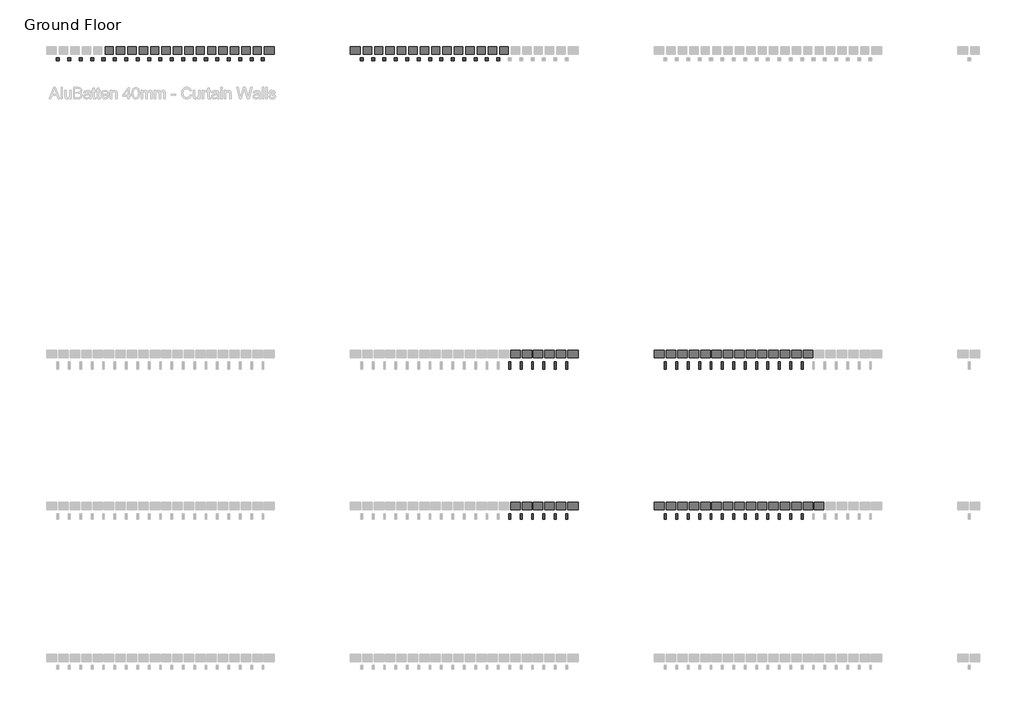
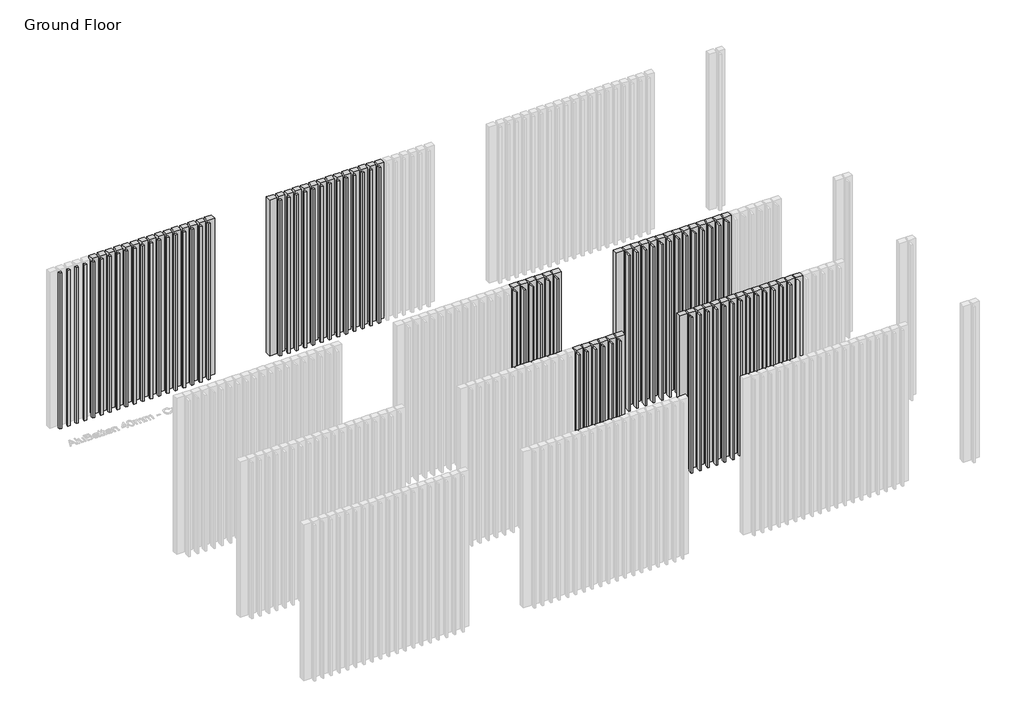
# One storey, part 4 of 350: 70 members, 70 plates.
"""IFC4 building model written with IfcOpenShell, lengths in millimetres."""

from ifc_helpers import new_model, si_unit, origin, place, context, project, spatial, transform, mapped, element, save
from components import rectangular_mullion_b3f0cc74, rectangular_mullion_5b385907, rectangular_mullion_e8802490, empty_system_panel_empty_db8e642d, empty_system_panel_empty_1b6afc67, empty_system_panel_empty_4d48d162, empty_system_panel_empty_b664eb17, empty_system_panel_empty_6da6c4cd, empty_system_panel_empty_b9c1531e

model = new_model("IFC4")

# Units and contexts
model_context = context("Model", 3, world=origin())
ifc_project = project(units=[si_unit("LENGTHUNIT", "METRE", prefix="MILLI")], contexts=[model_context])

# Site, building, storey
site = spatial("IfcSite", under=ifc_project)
building = spatial("IfcBuilding", under=site)
storey = spatial("IfcBuildingStorey", under=building, Name="Ground Floor", Elevation=0.0)

# Members
placement = place(None, origin())
rectangular_mullion_shape = rectangular_mullion_b3f0cc74(model_context)
element("IfcMember", 1, ObjectType="Rectangular Mullion : Batten_Aluminium_Modinex_AluBatten_25x75_EnglishOak", at=placement, inside=storey, context=model_context, shape_type="MappedRepresentation", body=[
    mapped(rectangular_mullion_shape, transform((10066.4361642, 8968.2978302, 0.0), x_axis=(1.0, 0.0, 0.0), y_axis=(0.0, -1.0, 0.0), z_axis=(0.0, 0.0, -1.0))),
])
element("IfcMember", 2, ObjectType="Rectangular Mullion : Batten_Aluminium_Modinex_AluBatten_25x75_EnglishOak", at=placement, inside=storey, context=model_context, shape_type="MappedRepresentation", body=[
    mapped(rectangular_mullion_shape, transform((10216.4361642, 8968.2978302, 0.0), x_axis=(1.0, 0.0, 0.0), y_axis=(0.0, -1.0, 0.0), z_axis=(0.0, 0.0, -1.0))),
])
element("IfcMember", 3, ObjectType="Rectangular Mullion : Batten_Aluminium_Modinex_AluBatten_25x75_EnglishOak", at=placement, inside=storey, context=model_context, shape_type="MappedRepresentation", body=[
    mapped(rectangular_mullion_shape, transform((10366.4361642, 8968.2978302, 0.0), x_axis=(1.0, 0.0, 0.0), y_axis=(0.0, -1.0, 0.0), z_axis=(0.0, 0.0, -1.0))),
])
element("IfcMember", 4, ObjectType="Rectangular Mullion : Batten_Aluminium_Modinex_AluBatten_25x75_EnglishOak", at=placement, inside=storey, context=model_context, shape_type="MappedRepresentation", body=[
    mapped(rectangular_mullion_shape, transform((10516.4361642, 8968.2978302, 0.0), x_axis=(1.0, 0.0, 0.0), y_axis=(0.0, -1.0, 0.0), z_axis=(0.0, 0.0, -1.0))),
])
element("IfcMember", 5, ObjectType="Rectangular Mullion : Batten_Aluminium_Modinex_AluBatten_25x75_EnglishOak", at=placement, inside=storey, context=model_context, shape_type="MappedRepresentation", body=[
    mapped(rectangular_mullion_shape, transform((10666.4361642, 8968.2978302, 0.0), x_axis=(1.0, 0.0, 0.0), y_axis=(0.0, -1.0, 0.0), z_axis=(0.0, 0.0, -1.0))),
])
element("IfcMember", 6, ObjectType="Rectangular Mullion : Batten_Aluminium_Modinex_AluBatten_25x75_EnglishOak", at=placement, inside=storey, context=model_context, shape_type="MappedRepresentation", body=[
    mapped(rectangular_mullion_shape, transform((10816.4361642, 8968.2978302, 0.0), x_axis=(1.0, 0.0, 0.0), y_axis=(0.0, -1.0, 0.0), z_axis=(0.0, 0.0, -1.0))),
])
element("IfcMember", 7, ObjectType="Rectangular Mullion : Batten_Aluminium_Modinex_AluBatten_25x75_EnglishOak", at=placement, inside=storey, context=model_context, shape_type="MappedRepresentation", body=[
    mapped(rectangular_mullion_shape, transform((10966.4361642, 8968.2978302, 0.0), x_axis=(1.0, 0.0, 0.0), y_axis=(0.0, -1.0, 0.0), z_axis=(0.0, 0.0, -1.0))),
])
element("IfcMember", 8, ObjectType="Rectangular Mullion : Batten_Aluminium_Modinex_AluBatten_25x75_EnglishOak", at=placement, inside=storey, context=model_context, shape_type="MappedRepresentation", body=[
    mapped(rectangular_mullion_shape, transform((11116.4361642, 8968.2978302, 0.0), x_axis=(1.0, 0.0, 0.0), y_axis=(0.0, -1.0, 0.0), z_axis=(0.0, 0.0, -1.0))),
])
element("IfcMember", 9, ObjectType="Rectangular Mullion : Batten_Aluminium_Modinex_AluBatten_25x75_EnglishOak", at=placement, inside=storey, context=model_context, shape_type="MappedRepresentation", body=[
    mapped(rectangular_mullion_shape, transform((11266.4361642, 8968.2978302, 0.0), x_axis=(1.0, 0.0, 0.0), y_axis=(0.0, -1.0, 0.0), z_axis=(0.0, 0.0, -1.0))),
])
element("IfcMember", 10, ObjectType="Rectangular Mullion : Batten_Aluminium_Modinex_AluBatten_25x75_EnglishOak", at=placement, inside=storey, context=model_context, shape_type="MappedRepresentation", body=[
    mapped(rectangular_mullion_shape, transform((11416.4361642, 8968.2978302, 0.0), x_axis=(1.0, 0.0, 0.0), y_axis=(0.0, -1.0, 0.0), z_axis=(0.0, 0.0, -1.0))),
])
element("IfcMember", 11, ObjectType="Rectangular Mullion : Batten_Aluminium_Modinex_AluBatten_25x75_EnglishOak", at=placement, inside=storey, context=model_context, shape_type="MappedRepresentation", body=[
    mapped(rectangular_mullion_shape, transform((11566.4361642, 8968.2978302, 0.0), x_axis=(1.0, 0.0, 0.0), y_axis=(0.0, -1.0, 0.0), z_axis=(0.0, 0.0, -1.0))),
])
element("IfcMember", 12, ObjectType="Rectangular Mullion : Batten_Aluminium_Modinex_AluBatten_25x75_EnglishOak", at=placement, inside=storey, context=model_context, shape_type="MappedRepresentation", body=[
    mapped(rectangular_mullion_shape, transform((11716.4361642, 8968.2978302, 0.0), x_axis=(1.0, 0.0, 0.0), y_axis=(0.0, -1.0, 0.0), z_axis=(0.0, 0.0, -1.0))),
])
element("IfcMember", 13, ObjectType="Rectangular Mullion : Batten_Aluminium_Modinex_AluBatten_25x75_EnglishOak", at=placement, inside=storey, context=model_context, shape_type="MappedRepresentation", body=[
    mapped(rectangular_mullion_shape, transform((11866.4361642, 8968.2978302, 0.0), x_axis=(1.0, 0.0, 0.0), y_axis=(0.0, -1.0, 0.0), z_axis=(0.0, 0.0, -1.0))),
])
rectangular_mullion_2_shape = rectangular_mullion_5b385907(model_context)
element("IfcMember", 14, ObjectType="Rectangular Mullion : Batten_Aluminium_Modinex_AluBatten_40x40_AfricanEbony", at=placement, inside=storey, context=model_context, shape_type="MappedRepresentation", body=[
    mapped(rectangular_mullion_2_shape, transform((2066.4361642, 14968.2978302, 0.0), x_axis=(1.0, 0.0, 0.0), y_axis=(0.0, -1.0, 0.0), z_axis=(0.0, 0.0, -1.0))),
])
element("IfcMember", 15, ObjectType="Rectangular Mullion : Batten_Aluminium_Modinex_AluBatten_40x40_AfricanEbony", at=placement, inside=storey, context=model_context, shape_type="MappedRepresentation", body=[
    mapped(rectangular_mullion_2_shape, transform((2216.4361642, 14968.2978302, 0.0), x_axis=(1.0, 0.0, 0.0), y_axis=(0.0, -1.0, 0.0), z_axis=(0.0, 0.0, -1.0))),
])
element("IfcMember", 16, ObjectType="Rectangular Mullion : Batten_Aluminium_Modinex_AluBatten_40x40_AfricanEbony", at=placement, inside=storey, context=model_context, shape_type="MappedRepresentation", body=[
    mapped(rectangular_mullion_2_shape, transform((2366.4361642, 14968.2978302, 0.0), x_axis=(1.0, 0.0, 0.0), y_axis=(0.0, -1.0, 0.0), z_axis=(0.0, 0.0, -1.0))),
])
element("IfcMember", 17, ObjectType="Rectangular Mullion : Batten_Aluminium_Modinex_AluBatten_40x40_AfricanEbony", at=placement, inside=storey, context=model_context, shape_type="MappedRepresentation", body=[
    mapped(rectangular_mullion_2_shape, transform((2516.4361642, 14968.2978302, 0.0), x_axis=(1.0, 0.0, 0.0), y_axis=(0.0, -1.0, 0.0), z_axis=(0.0, 0.0, -1.0))),
])
element("IfcMember", 18, ObjectType="Rectangular Mullion : Batten_Aluminium_Modinex_AluBatten_40x40_AfricanEbony", at=placement, inside=storey, context=model_context, shape_type="MappedRepresentation", body=[
    mapped(rectangular_mullion_2_shape, transform((2666.4361642, 14968.2978302, 0.0), x_axis=(1.0, 0.0, 0.0), y_axis=(0.0, -1.0, 0.0), z_axis=(0.0, 0.0, -1.0))),
])
element("IfcMember", 19, ObjectType="Rectangular Mullion : Batten_Aluminium_Modinex_AluBatten_40x40_AfricanEbony", at=placement, inside=storey, context=model_context, shape_type="MappedRepresentation", body=[
    mapped(rectangular_mullion_2_shape, transform((2816.4361642, 14968.2978302, 0.0), x_axis=(1.0, 0.0, 0.0), y_axis=(0.0, -1.0, 0.0), z_axis=(0.0, 0.0, -1.0))),
])
element("IfcMember", 20, ObjectType="Rectangular Mullion : Batten_Aluminium_Modinex_AluBatten_40x40_AfricanEbony", at=placement, inside=storey, context=model_context, shape_type="MappedRepresentation", body=[
    mapped(rectangular_mullion_2_shape, transform((2966.4361642, 14968.2978302, 0.0), x_axis=(1.0, 0.0, 0.0), y_axis=(0.0, -1.0, 0.0), z_axis=(0.0, 0.0, -1.0))),
])
element("IfcMember", 21, ObjectType="Rectangular Mullion : Batten_Aluminium_Modinex_AluBatten_40x40_AfricanEbony", at=placement, inside=storey, context=model_context, shape_type="MappedRepresentation", body=[
    mapped(rectangular_mullion_2_shape, transform((3116.4361642, 14968.2978302, 0.0), x_axis=(1.0, 0.0, 0.0), y_axis=(0.0, -1.0, 0.0), z_axis=(0.0, 0.0, -1.0))),
])
element("IfcMember", 22, ObjectType="Rectangular Mullion : Batten_Aluminium_Modinex_AluBatten_40x40_AfricanEbony", at=placement, inside=storey, context=model_context, shape_type="MappedRepresentation", body=[
    mapped(rectangular_mullion_2_shape, transform((3266.4361642, 14968.2978302, 0.0), x_axis=(1.0, 0.0, 0.0), y_axis=(0.0, -1.0, 0.0), z_axis=(0.0, 0.0, -1.0))),
])
element("IfcMember", 23, ObjectType="Rectangular Mullion : Batten_Aluminium_Modinex_AluBatten_40x40_AfricanEbony", at=placement, inside=storey, context=model_context, shape_type="MappedRepresentation", body=[
    mapped(rectangular_mullion_2_shape, transform((3416.4361642, 14968.2978302, 0.0), x_axis=(1.0, 0.0, 0.0), y_axis=(0.0, -1.0, 0.0), z_axis=(0.0, 0.0, -1.0))),
])
element("IfcMember", 24, ObjectType="Rectangular Mullion : Batten_Aluminium_Modinex_AluBatten_40x40_AfricanEbony", at=placement, inside=storey, context=model_context, shape_type="MappedRepresentation", body=[
    mapped(rectangular_mullion_2_shape, transform((3566.4361642, 14968.2978302, 0.0), x_axis=(1.0, 0.0, 0.0), y_axis=(0.0, -1.0, 0.0), z_axis=(0.0, 0.0, -1.0))),
])
element("IfcMember", 25, ObjectType="Rectangular Mullion : Batten_Aluminium_Modinex_AluBatten_40x40_AfricanEbony", at=placement, inside=storey, context=model_context, shape_type="MappedRepresentation", body=[
    mapped(rectangular_mullion_2_shape, transform((3716.4361642, 14968.2978302, 0.0), x_axis=(1.0, 0.0, 0.0), y_axis=(0.0, -1.0, 0.0), z_axis=(0.0, 0.0, -1.0))),
])
element("IfcMember", 26, ObjectType="Rectangular Mullion : Batten_Aluminium_Modinex_AluBatten_40x40_AfricanEbony", at=placement, inside=storey, context=model_context, shape_type="MappedRepresentation", body=[
    mapped(rectangular_mullion_2_shape, transform((3866.4361642, 14968.2978302, 0.0), x_axis=(1.0, 0.0, 0.0), y_axis=(0.0, -1.0, 0.0), z_axis=(0.0, 0.0, -1.0))),
])
element("IfcMember", 27, ObjectType="Rectangular Mullion : Batten_Aluminium_Modinex_AluBatten_40x40_AfricanEbony", at=placement, inside=storey, context=model_context, shape_type="MappedRepresentation", body=[
    mapped(rectangular_mullion_2_shape, transform((4016.4361642, 14968.2978302, 0.0), x_axis=(1.0, 0.0, 0.0), y_axis=(0.0, -1.0, 0.0), z_axis=(0.0, 0.0, -1.0))),
])
element("IfcMember", 28, ObjectType="Rectangular Mullion : Batten_Aluminium_Modinex_AluBatten_40x40_AfricanEbony", at=placement, inside=storey, context=model_context, shape_type="MappedRepresentation", body=[
    mapped(rectangular_mullion_2_shape, transform((4166.4361642, 14968.2978302, 0.0), x_axis=(1.0, 0.0, 0.0), y_axis=(0.0, -1.0, 0.0), z_axis=(0.0, 0.0, -1.0))),
])
element("IfcMember", 29, ObjectType="Rectangular Mullion : Batten_Aluminium_Modinex_AluBatten_40x40_AfricanEbony", at=placement, inside=storey, context=model_context, shape_type="MappedRepresentation", body=[
    mapped(rectangular_mullion_2_shape, transform((4316.4361642, 14968.2978302, 0.0), x_axis=(1.0, 0.0, 0.0), y_axis=(0.0, -1.0, 0.0), z_axis=(0.0, 0.0, -1.0))),
])
element("IfcMember", 30, ObjectType="Rectangular Mullion : Batten_Aluminium_Modinex_AluBatten_40x40_AfricanEbony", at=placement, inside=storey, context=model_context, shape_type="MappedRepresentation", body=[
    mapped(rectangular_mullion_2_shape, transform((4466.4361642, 14968.2978302, 0.0), x_axis=(1.0, 0.0, 0.0), y_axis=(0.0, -1.0, 0.0), z_axis=(0.0, 0.0, -1.0))),
])
element("IfcMember", 31, ObjectType="Rectangular Mullion : Batten_Aluminium_Modinex_AluBatten_40x40_AfricanEbony", at=placement, inside=storey, context=model_context, shape_type="MappedRepresentation", body=[
    mapped(rectangular_mullion_2_shape, transform((4616.4361642, 14968.2978302, 0.0), x_axis=(1.0, 0.0, 0.0), y_axis=(0.0, -1.0, 0.0), z_axis=(0.0, 0.0, -1.0))),
])
element("IfcMember", 32, ObjectType="Rectangular Mullion : Batten_Aluminium_Modinex_AluBatten_40x40_AfricanEbony", at=placement, inside=storey, context=model_context, shape_type="MappedRepresentation", body=[
    mapped(rectangular_mullion_2_shape, transform((4766.4361642, 14968.2978302, 0.0), x_axis=(1.0, 0.0, 0.0), y_axis=(0.0, -1.0, 0.0), z_axis=(0.0, 0.0, -1.0))),
])
element("IfcMember", 33, ObjectType="Rectangular Mullion : Batten_Aluminium_Modinex_AluBatten_25x75_Cedar", at=placement, inside=storey, context=model_context, shape_type="MappedRepresentation", body=[
    mapped(rectangular_mullion_shape, transform((8016.4361642, 8968.2978302, 0.0), x_axis=(1.0, 0.0, 0.0), y_axis=(0.0, -1.0, 0.0), z_axis=(0.0, 0.0, -1.0))),
])
element("IfcMember", 34, ObjectType="Rectangular Mullion : Batten_Aluminium_Modinex_AluBatten_25x75_Cedar", at=placement, inside=storey, context=model_context, shape_type="MappedRepresentation", body=[
    mapped(rectangular_mullion_shape, transform((8166.4361642, 8968.2978302, 0.0), x_axis=(1.0, 0.0, 0.0), y_axis=(0.0, -1.0, 0.0), z_axis=(0.0, 0.0, -1.0))),
])
element("IfcMember", 35, ObjectType="Rectangular Mullion : Batten_Aluminium_Modinex_AluBatten_25x75_Cedar", at=placement, inside=storey, context=model_context, shape_type="MappedRepresentation", body=[
    mapped(rectangular_mullion_shape, transform((8316.4361642, 8968.2978302, 0.0), x_axis=(1.0, 0.0, 0.0), y_axis=(0.0, -1.0, 0.0), z_axis=(0.0, 0.0, -1.0))),
])
element("IfcMember", 36, ObjectType="Rectangular Mullion : Batten_Aluminium_Modinex_AluBatten_25x75_Cedar", at=placement, inside=storey, context=model_context, shape_type="MappedRepresentation", body=[
    mapped(rectangular_mullion_shape, transform((8466.4361642, 8968.2978302, 0.0), x_axis=(1.0, 0.0, 0.0), y_axis=(0.0, -1.0, 0.0), z_axis=(0.0, 0.0, -1.0))),
])
element("IfcMember", 37, ObjectType="Rectangular Mullion : Batten_Aluminium_Modinex_AluBatten_25x75_Cedar", at=placement, inside=storey, context=model_context, shape_type="MappedRepresentation", body=[
    mapped(rectangular_mullion_shape, transform((8616.4361642, 8968.2978302, 0.0), x_axis=(1.0, 0.0, 0.0), y_axis=(0.0, -1.0, 0.0), z_axis=(0.0, 0.0, -1.0))),
])
element("IfcMember", 38, ObjectType="Rectangular Mullion : Batten_Aluminium_Modinex_AluBatten_25x75_Cedar", at=placement, inside=storey, context=model_context, shape_type="MappedRepresentation", body=[
    mapped(rectangular_mullion_shape, transform((8766.4361642, 8968.2978302, 0.0), x_axis=(1.0, 0.0, 0.0), y_axis=(0.0, -1.0, 0.0), z_axis=(0.0, 0.0, -1.0))),
])
rectangular_mullion_3_shape = rectangular_mullion_e8802490(model_context)
element("IfcMember", 39, ObjectType="Rectangular Mullion : Batten_Aluminium_Modinex_AluBatten_25x100_Cedar", at=placement, inside=storey, context=model_context, shape_type="MappedRepresentation", body=[
    mapped(rectangular_mullion_3_shape, transform((8016.4361642, 10968.2978302, 0.0), x_axis=(1.0, 0.0, 0.0), y_axis=(0.0, -1.0, 0.0), z_axis=(0.0, 0.0, -1.0))),
])
element("IfcMember", 40, ObjectType="Rectangular Mullion : Batten_Aluminium_Modinex_AluBatten_25x100_Cedar", at=placement, inside=storey, context=model_context, shape_type="MappedRepresentation", body=[
    mapped(rectangular_mullion_3_shape, transform((8166.4361642, 10968.2978302, 0.0), x_axis=(1.0, 0.0, 0.0), y_axis=(0.0, -1.0, 0.0), z_axis=(0.0, 0.0, -1.0))),
])
element("IfcMember", 41, ObjectType="Rectangular Mullion : Batten_Aluminium_Modinex_AluBatten_25x100_Cedar", at=placement, inside=storey, context=model_context, shape_type="MappedRepresentation", body=[
    mapped(rectangular_mullion_3_shape, transform((8316.4361642, 10968.2978302, 0.0), x_axis=(1.0, 0.0, 0.0), y_axis=(0.0, -1.0, 0.0), z_axis=(0.0, 0.0, -1.0))),
])
element("IfcMember", 42, ObjectType="Rectangular Mullion : Batten_Aluminium_Modinex_AluBatten_25x100_Cedar", at=placement, inside=storey, context=model_context, shape_type="MappedRepresentation", body=[
    mapped(rectangular_mullion_3_shape, transform((8466.4361642, 10968.2978302, 0.0), x_axis=(1.0, 0.0, 0.0), y_axis=(0.0, -1.0, 0.0), z_axis=(0.0, 0.0, -1.0))),
])
element("IfcMember", 43, ObjectType="Rectangular Mullion : Batten_Aluminium_Modinex_AluBatten_25x100_Cedar", at=placement, inside=storey, context=model_context, shape_type="MappedRepresentation", body=[
    mapped(rectangular_mullion_3_shape, transform((8616.4361642, 10968.2978302, 0.0), x_axis=(1.0, 0.0, 0.0), y_axis=(0.0, -1.0, 0.0), z_axis=(0.0, 0.0, -1.0))),
])
element("IfcMember", 44, ObjectType="Rectangular Mullion : Batten_Aluminium_Modinex_AluBatten_25x100_Cedar", at=placement, inside=storey, context=model_context, shape_type="MappedRepresentation", body=[
    mapped(rectangular_mullion_3_shape, transform((8766.4361642, 10968.2978302, 0.0), x_axis=(1.0, 0.0, 0.0), y_axis=(0.0, -1.0, 0.0), z_axis=(0.0, 0.0, -1.0))),
])
element("IfcMember", 45, ObjectType="Rectangular Mullion : Batten_Aluminium_Modinex_AluBatten_25x100_EnglishOak", at=placement, inside=storey, context=model_context, shape_type="MappedRepresentation", body=[
    mapped(rectangular_mullion_3_shape, transform((10066.4361642, 10968.2978302, 0.0), x_axis=(1.0, 0.0, 0.0), y_axis=(0.0, -1.0, 0.0), z_axis=(0.0, 0.0, -1.0))),
])
element("IfcMember", 46, ObjectType="Rectangular Mullion : Batten_Aluminium_Modinex_AluBatten_25x100_EnglishOak", at=placement, inside=storey, context=model_context, shape_type="MappedRepresentation", body=[
    mapped(rectangular_mullion_3_shape, transform((10216.4361642, 10968.2978302, 0.0), x_axis=(1.0, 0.0, 0.0), y_axis=(0.0, -1.0, 0.0), z_axis=(0.0, 0.0, -1.0))),
])
element("IfcMember", 47, ObjectType="Rectangular Mullion : Batten_Aluminium_Modinex_AluBatten_25x100_EnglishOak", at=placement, inside=storey, context=model_context, shape_type="MappedRepresentation", body=[
    mapped(rectangular_mullion_3_shape, transform((10366.4361642, 10968.2978302, 0.0), x_axis=(1.0, 0.0, 0.0), y_axis=(0.0, -1.0, 0.0), z_axis=(0.0, 0.0, -1.0))),
])
element("IfcMember", 48, ObjectType="Rectangular Mullion : Batten_Aluminium_Modinex_AluBatten_25x100_EnglishOak", at=placement, inside=storey, context=model_context, shape_type="MappedRepresentation", body=[
    mapped(rectangular_mullion_3_shape, transform((10516.4361642, 10968.2978302, 0.0), x_axis=(1.0, 0.0, 0.0), y_axis=(0.0, -1.0, 0.0), z_axis=(0.0, 0.0, -1.0))),
])
element("IfcMember", 49, ObjectType="Rectangular Mullion : Batten_Aluminium_Modinex_AluBatten_25x100_EnglishOak", at=placement, inside=storey, context=model_context, shape_type="MappedRepresentation", body=[
    mapped(rectangular_mullion_3_shape, transform((10666.4361642, 10968.2978302, 0.0), x_axis=(1.0, 0.0, 0.0), y_axis=(0.0, -1.0, 0.0), z_axis=(0.0, 0.0, -1.0))),
])
element("IfcMember", 50, ObjectType="Rectangular Mullion : Batten_Aluminium_Modinex_AluBatten_25x100_EnglishOak", at=placement, inside=storey, context=model_context, shape_type="MappedRepresentation", body=[
    mapped(rectangular_mullion_3_shape, transform((10816.4361642, 10968.2978302, 0.0), x_axis=(1.0, 0.0, 0.0), y_axis=(0.0, -1.0, 0.0), z_axis=(0.0, 0.0, -1.0))),
])
element("IfcMember", 51, ObjectType="Rectangular Mullion : Batten_Aluminium_Modinex_AluBatten_25x100_EnglishOak", at=placement, inside=storey, context=model_context, shape_type="MappedRepresentation", body=[
    mapped(rectangular_mullion_3_shape, transform((10966.4361642, 10968.2978302, 0.0), x_axis=(1.0, 0.0, 0.0), y_axis=(0.0, -1.0, 0.0), z_axis=(0.0, 0.0, -1.0))),
])
element("IfcMember", 52, ObjectType="Rectangular Mullion : Batten_Aluminium_Modinex_AluBatten_25x100_EnglishOak", at=placement, inside=storey, context=model_context, shape_type="MappedRepresentation", body=[
    mapped(rectangular_mullion_3_shape, transform((11116.4361642, 10968.2978302, 0.0), x_axis=(1.0, 0.0, 0.0), y_axis=(0.0, -1.0, 0.0), z_axis=(0.0, 0.0, -1.0))),
])
element("IfcMember", 53, ObjectType="Rectangular Mullion : Batten_Aluminium_Modinex_AluBatten_25x100_EnglishOak", at=placement, inside=storey, context=model_context, shape_type="MappedRepresentation", body=[
    mapped(rectangular_mullion_3_shape, transform((11266.4361642, 10968.2978302, 0.0), x_axis=(1.0, 0.0, 0.0), y_axis=(0.0, -1.0, 0.0), z_axis=(0.0, 0.0, -1.0))),
])
element("IfcMember", 54, ObjectType="Rectangular Mullion : Batten_Aluminium_Modinex_AluBatten_25x100_EnglishOak", at=placement, inside=storey, context=model_context, shape_type="MappedRepresentation", body=[
    mapped(rectangular_mullion_3_shape, transform((11416.4361642, 10968.2978302, 0.0), x_axis=(1.0, 0.0, 0.0), y_axis=(0.0, -1.0, 0.0), z_axis=(0.0, 0.0, -1.0))),
])
element("IfcMember", 55, ObjectType="Rectangular Mullion : Batten_Aluminium_Modinex_AluBatten_25x100_EnglishOak", at=placement, inside=storey, context=model_context, shape_type="MappedRepresentation", body=[
    mapped(rectangular_mullion_3_shape, transform((11566.4361642, 10968.2978302, 0.0), x_axis=(1.0, 0.0, 0.0), y_axis=(0.0, -1.0, 0.0), z_axis=(0.0, 0.0, -1.0))),
])
element("IfcMember", 56, ObjectType="Rectangular Mullion : Batten_Aluminium_Modinex_AluBatten_25x100_EnglishOak", at=placement, inside=storey, context=model_context, shape_type="MappedRepresentation", body=[
    mapped(rectangular_mullion_3_shape, transform((11716.4361642, 10968.2978302, 0.0), x_axis=(1.0, 0.0, 0.0), y_axis=(0.0, -1.0, 0.0), z_axis=(0.0, 0.0, -1.0))),
])
element("IfcMember", 57, ObjectType="Rectangular Mullion : Batten_Aluminium_Modinex_AluBatten_25x100_EnglishOak", at=placement, inside=storey, context=model_context, shape_type="MappedRepresentation", body=[
    mapped(rectangular_mullion_3_shape, transform((11866.4361642, 10968.2978302, 0.0), x_axis=(1.0, 0.0, 0.0), y_axis=(0.0, -1.0, 0.0), z_axis=(0.0, 0.0, -1.0))),
])
element("IfcMember", 58, ObjectType="Rectangular Mullion : Batten_Aluminium_Modinex_AluBatten_40x40_Cedar", at=placement, inside=storey, context=model_context, shape_type="MappedRepresentation", body=[
    mapped(rectangular_mullion_2_shape, transform((6066.4361642, 14968.2978302, 0.0), x_axis=(1.0, 0.0, 0.0), y_axis=(0.0, -1.0, 0.0), z_axis=(0.0, 0.0, -1.0))),
])
element("IfcMember", 59, ObjectType="Rectangular Mullion : Batten_Aluminium_Modinex_AluBatten_40x40_Cedar", at=placement, inside=storey, context=model_context, shape_type="MappedRepresentation", body=[
    mapped(rectangular_mullion_2_shape, transform((6216.4361642, 14968.2978302, 0.0), x_axis=(1.0, 0.0, 0.0), y_axis=(0.0, -1.0, 0.0), z_axis=(0.0, 0.0, -1.0))),
])
element("IfcMember", 60, ObjectType="Rectangular Mullion : Batten_Aluminium_Modinex_AluBatten_40x40_Cedar", at=placement, inside=storey, context=model_context, shape_type="MappedRepresentation", body=[
    mapped(rectangular_mullion_2_shape, transform((6366.4361642, 14968.2978302, 0.0), x_axis=(1.0, 0.0, 0.0), y_axis=(0.0, -1.0, 0.0), z_axis=(0.0, 0.0, -1.0))),
])
element("IfcMember", 61, ObjectType="Rectangular Mullion : Batten_Aluminium_Modinex_AluBatten_40x40_Cedar", at=placement, inside=storey, context=model_context, shape_type="MappedRepresentation", body=[
    mapped(rectangular_mullion_2_shape, transform((6516.4361642, 14968.2978302, 0.0), x_axis=(1.0, 0.0, 0.0), y_axis=(0.0, -1.0, 0.0), z_axis=(0.0, 0.0, -1.0))),
])
element("IfcMember", 62, ObjectType="Rectangular Mullion : Batten_Aluminium_Modinex_AluBatten_40x40_Cedar", at=placement, inside=storey, context=model_context, shape_type="MappedRepresentation", body=[
    mapped(rectangular_mullion_2_shape, transform((6666.4361642, 14968.2978302, 0.0), x_axis=(1.0, 0.0, 0.0), y_axis=(0.0, -1.0, 0.0), z_axis=(0.0, 0.0, -1.0))),
])
element("IfcMember", 63, ObjectType="Rectangular Mullion : Batten_Aluminium_Modinex_AluBatten_40x40_Cedar", at=placement, inside=storey, context=model_context, shape_type="MappedRepresentation", body=[
    mapped(rectangular_mullion_2_shape, transform((6816.4361642, 14968.2978302, 0.0), x_axis=(1.0, 0.0, 0.0), y_axis=(0.0, -1.0, 0.0), z_axis=(0.0, 0.0, -1.0))),
])
element("IfcMember", 64, ObjectType="Rectangular Mullion : Batten_Aluminium_Modinex_AluBatten_40x40_Cedar", at=placement, inside=storey, context=model_context, shape_type="MappedRepresentation", body=[
    mapped(rectangular_mullion_2_shape, transform((6966.4361642, 14968.2978302, 0.0), x_axis=(1.0, 0.0, 0.0), y_axis=(0.0, -1.0, 0.0), z_axis=(0.0, 0.0, -1.0))),
])
element("IfcMember", 65, ObjectType="Rectangular Mullion : Batten_Aluminium_Modinex_AluBatten_40x40_Cedar", at=placement, inside=storey, context=model_context, shape_type="MappedRepresentation", body=[
    mapped(rectangular_mullion_2_shape, transform((7116.4361642, 14968.2978302, 0.0), x_axis=(1.0, 0.0, 0.0), y_axis=(0.0, -1.0, 0.0), z_axis=(0.0, 0.0, -1.0))),
])
element("IfcMember", 66, ObjectType="Rectangular Mullion : Batten_Aluminium_Modinex_AluBatten_40x40_Cedar", at=placement, inside=storey, context=model_context, shape_type="MappedRepresentation", body=[
    mapped(rectangular_mullion_2_shape, transform((7266.4361642, 14968.2978302, 0.0), x_axis=(1.0, 0.0, 0.0), y_axis=(0.0, -1.0, 0.0), z_axis=(0.0, 0.0, -1.0))),
])
element("IfcMember", 67, ObjectType="Rectangular Mullion : Batten_Aluminium_Modinex_AluBatten_40x40_Cedar", at=placement, inside=storey, context=model_context, shape_type="MappedRepresentation", body=[
    mapped(rectangular_mullion_2_shape, transform((7416.4361642, 14968.2978302, 0.0), x_axis=(1.0, 0.0, 0.0), y_axis=(0.0, -1.0, 0.0), z_axis=(0.0, 0.0, -1.0))),
])
element("IfcMember", 68, ObjectType="Rectangular Mullion : Batten_Aluminium_Modinex_AluBatten_40x40_Cedar", at=placement, inside=storey, context=model_context, shape_type="MappedRepresentation", body=[
    mapped(rectangular_mullion_2_shape, transform((7566.4361642, 14968.2978302, 0.0), x_axis=(1.0, 0.0, 0.0), y_axis=(0.0, -1.0, 0.0), z_axis=(0.0, 0.0, -1.0))),
])
element("IfcMember", 69, ObjectType="Rectangular Mullion : Batten_Aluminium_Modinex_AluBatten_40x40_Cedar", at=placement, inside=storey, context=model_context, shape_type="MappedRepresentation", body=[
    mapped(rectangular_mullion_2_shape, transform((7716.4361642, 14968.2978302, 0.0), x_axis=(1.0, 0.0, 0.0), y_axis=(0.0, -1.0, 0.0), z_axis=(0.0, 0.0, -1.0))),
])
element("IfcMember", 70, ObjectType="Rectangular Mullion : Batten_Aluminium_Modinex_AluBatten_40x40_Cedar", at=placement, inside=storey, context=model_context, shape_type="MappedRepresentation", body=[
    mapped(rectangular_mullion_2_shape, transform((7866.4361642, 14968.2978302, 0.0), x_axis=(1.0, 0.0, 0.0), y_axis=(0.0, -1.0, 0.0), z_axis=(0.0, 0.0, -1.0))),
])

# Plates
empty_system_panel_empty_shape = empty_system_panel_empty_db8e642d(model_context)
element("IfcPlate", 71, ObjectType="Empty System Panel : Empty", at=placement, inside=storey, context=model_context, shape_type="MappedRepresentation", body=[
    mapped(empty_system_panel_empty_shape, transform((9985.1861641, 8968.2978302, 0.0), x_axis=(1.0, 0.0, 0.0), y_axis=(0.0, 1.0, 0.0), z_axis=(0.0, 0.0, 1.0))),
])
element("IfcPlate", 72, ObjectType="Empty System Panel : Empty", at=placement, inside=storey, context=model_context, shape_type="MappedRepresentation", body=[
    mapped(empty_system_panel_empty_shape, transform((9985.1861641, 10968.2978302, 0.0), x_axis=(1.0, 0.0, 0.0), y_axis=(0.0, 1.0, 0.0), z_axis=(0.0, 0.0, 1.0))),
])
empty_system_panel_empty_2_shape = empty_system_panel_empty_1b6afc67(model_context)
element("IfcPlate", 73, ObjectType="Empty System Panel : Empty", at=placement, inside=storey, context=model_context, shape_type="MappedRepresentation", body=[
    mapped(empty_system_panel_empty_2_shape, transform((8091.4361642, 8968.2978302, 0.0), x_axis=(1.0, 0.0, 0.0), y_axis=(0.0, 1.0, 0.0), z_axis=(0.0, 0.0, 1.0))),
])
element("IfcPlate", 74, ObjectType="Empty System Panel : Empty", at=placement, inside=storey, context=model_context, shape_type="MappedRepresentation", body=[
    mapped(empty_system_panel_empty_2_shape, transform((8241.4361642, 8968.2978302, 0.0), x_axis=(1.0, 0.0, 0.0), y_axis=(0.0, 1.0, 0.0), z_axis=(0.0, 0.0, 1.0))),
])
element("IfcPlate", 75, ObjectType="Empty System Panel : Empty", at=placement, inside=storey, context=model_context, shape_type="MappedRepresentation", body=[
    mapped(empty_system_panel_empty_2_shape, transform((8391.4361642, 8968.2978302, 0.0), x_axis=(1.0, 0.0, 0.0), y_axis=(0.0, 1.0, 0.0), z_axis=(0.0, 0.0, 1.0))),
])
element("IfcPlate", 76, ObjectType="Empty System Panel : Empty", at=placement, inside=storey, context=model_context, shape_type="MappedRepresentation", body=[
    mapped(empty_system_panel_empty_2_shape, transform((8541.4361642, 8968.2978302, 0.0), x_axis=(1.0, 0.0, 0.0), y_axis=(0.0, 1.0, 0.0), z_axis=(0.0, 0.0, 1.0))),
])
element("IfcPlate", 77, ObjectType="Empty System Panel : Empty", at=placement, inside=storey, context=model_context, shape_type="MappedRepresentation", body=[
    mapped(empty_system_panel_empty_2_shape, transform((8691.4361642, 8968.2978302, 0.0), x_axis=(1.0, 0.0, 0.0), y_axis=(0.0, 1.0, 0.0), z_axis=(0.0, 0.0, 1.0))),
])
element("IfcPlate", 78, ObjectType="Empty System Panel : Empty", at=placement, inside=storey, context=model_context, shape_type="MappedRepresentation", body=[
    mapped(empty_system_panel_empty_2_shape, transform((10141.4361642, 8968.2978302, 0.0), x_axis=(1.0, 0.0, 0.0), y_axis=(0.0, 1.0, 0.0), z_axis=(0.0, 0.0, 1.0))),
])
element("IfcPlate", 79, ObjectType="Empty System Panel : Empty", at=placement, inside=storey, context=model_context, shape_type="MappedRepresentation", body=[
    mapped(empty_system_panel_empty_2_shape, transform((10291.4361642, 8968.2978302, 0.0), x_axis=(1.0, 0.0, 0.0), y_axis=(0.0, 1.0, 0.0), z_axis=(0.0, 0.0, 1.0))),
])
element("IfcPlate", 80, ObjectType="Empty System Panel : Empty", at=placement, inside=storey, context=model_context, shape_type="MappedRepresentation", body=[
    mapped(empty_system_panel_empty_2_shape, transform((10441.4361642, 8968.2978302, 0.0), x_axis=(1.0, 0.0, 0.0), y_axis=(0.0, 1.0, 0.0), z_axis=(0.0, 0.0, 1.0))),
])
element("IfcPlate", 81, ObjectType="Empty System Panel : Empty", at=placement, inside=storey, context=model_context, shape_type="MappedRepresentation", body=[
    mapped(empty_system_panel_empty_2_shape, transform((10591.4361642, 8968.2978302, 0.0), x_axis=(1.0, 0.0, 0.0), y_axis=(0.0, 1.0, 0.0), z_axis=(0.0, 0.0, 1.0))),
])
element("IfcPlate", 82, ObjectType="Empty System Panel : Empty", at=placement, inside=storey, context=model_context, shape_type="MappedRepresentation", body=[
    mapped(empty_system_panel_empty_2_shape, transform((10741.4361642, 8968.2978302, 0.0), x_axis=(1.0, 0.0, 0.0), y_axis=(0.0, 1.0, 0.0), z_axis=(0.0, 0.0, 1.0))),
])
element("IfcPlate", 83, ObjectType="Empty System Panel : Empty", at=placement, inside=storey, context=model_context, shape_type="MappedRepresentation", body=[
    mapped(empty_system_panel_empty_2_shape, transform((10891.4361642, 8968.2978302, 0.0), x_axis=(1.0, 0.0, 0.0), y_axis=(0.0, 1.0, 0.0), z_axis=(0.0, 0.0, 1.0))),
])
element("IfcPlate", 84, ObjectType="Empty System Panel : Empty", at=placement, inside=storey, context=model_context, shape_type="MappedRepresentation", body=[
    mapped(empty_system_panel_empty_2_shape, transform((11041.4361642, 8968.2978302, 0.0), x_axis=(1.0, 0.0, 0.0), y_axis=(0.0, 1.0, 0.0), z_axis=(0.0, 0.0, 1.0))),
])
element("IfcPlate", 85, ObjectType="Empty System Panel : Empty", at=placement, inside=storey, context=model_context, shape_type="MappedRepresentation", body=[
    mapped(empty_system_panel_empty_2_shape, transform((11191.4361642, 8968.2978302, 0.0), x_axis=(1.0, 0.0, 0.0), y_axis=(0.0, 1.0, 0.0), z_axis=(0.0, 0.0, 1.0))),
])
element("IfcPlate", 86, ObjectType="Empty System Panel : Empty", at=placement, inside=storey, context=model_context, shape_type="MappedRepresentation", body=[
    mapped(empty_system_panel_empty_2_shape, transform((11341.4361642, 8968.2978302, 0.0), x_axis=(1.0, 0.0, 0.0), y_axis=(0.0, 1.0, 0.0), z_axis=(0.0, 0.0, 1.0))),
])
element("IfcPlate", 87, ObjectType="Empty System Panel : Empty", at=placement, inside=storey, context=model_context, shape_type="MappedRepresentation", body=[
    mapped(empty_system_panel_empty_2_shape, transform((11491.4361642, 8968.2978302, 0.0), x_axis=(1.0, 0.0, 0.0), y_axis=(0.0, 1.0, 0.0), z_axis=(0.0, 0.0, 1.0))),
])
element("IfcPlate", 88, ObjectType="Empty System Panel : Empty", at=placement, inside=storey, context=model_context, shape_type="MappedRepresentation", body=[
    mapped(empty_system_panel_empty_2_shape, transform((11641.4361642, 8968.2978302, 0.0), x_axis=(1.0, 0.0, 0.0), y_axis=(0.0, 1.0, 0.0), z_axis=(0.0, 0.0, 1.0))),
])
element("IfcPlate", 89, ObjectType="Empty System Panel : Empty", at=placement, inside=storey, context=model_context, shape_type="MappedRepresentation", body=[
    mapped(empty_system_panel_empty_2_shape, transform((11791.4361642, 8968.2978302, 0.0), x_axis=(1.0, 0.0, 0.0), y_axis=(0.0, 1.0, 0.0), z_axis=(0.0, 0.0, 1.0))),
])
element("IfcPlate", 90, ObjectType="Empty System Panel : Empty", at=placement, inside=storey, context=model_context, shape_type="MappedRepresentation", body=[
    mapped(empty_system_panel_empty_2_shape, transform((11941.4361642, 8968.2978302, 0.0), x_axis=(1.0, 0.0, 0.0), y_axis=(0.0, 1.0, 0.0), z_axis=(0.0, 0.0, 1.0))),
])
element("IfcPlate", 91, ObjectType="Empty System Panel : Empty", at=placement, inside=storey, context=model_context, shape_type="MappedRepresentation", body=[
    mapped(empty_system_panel_empty_2_shape, transform((12091.4361642, 8968.2978302, 0.0), x_axis=(1.0, 0.0, 0.0), y_axis=(0.0, 1.0, 0.0), z_axis=(0.0, 0.0, 1.0))),
])
element("IfcPlate", 92, ObjectType="Empty System Panel : Empty", at=placement, inside=storey, context=model_context, shape_type="MappedRepresentation", body=[
    mapped(empty_system_panel_empty_2_shape, transform((8091.4361642, 10968.2978302, 0.0), x_axis=(1.0, 0.0, 0.0), y_axis=(0.0, 1.0, 0.0), z_axis=(0.0, 0.0, 1.0))),
])
element("IfcPlate", 93, ObjectType="Empty System Panel : Empty", at=placement, inside=storey, context=model_context, shape_type="MappedRepresentation", body=[
    mapped(empty_system_panel_empty_2_shape, transform((8241.4361642, 10968.2978302, 0.0), x_axis=(1.0, 0.0, 0.0), y_axis=(0.0, 1.0, 0.0), z_axis=(0.0, 0.0, 1.0))),
])
element("IfcPlate", 94, ObjectType="Empty System Panel : Empty", at=placement, inside=storey, context=model_context, shape_type="MappedRepresentation", body=[
    mapped(empty_system_panel_empty_2_shape, transform((8391.4361642, 10968.2978302, 0.0), x_axis=(1.0, 0.0, 0.0), y_axis=(0.0, 1.0, 0.0), z_axis=(0.0, 0.0, 1.0))),
])
element("IfcPlate", 95, ObjectType="Empty System Panel : Empty", at=placement, inside=storey, context=model_context, shape_type="MappedRepresentation", body=[
    mapped(empty_system_panel_empty_2_shape, transform((8541.4361642, 10968.2978302, 0.0), x_axis=(1.0, 0.0, 0.0), y_axis=(0.0, 1.0, 0.0), z_axis=(0.0, 0.0, 1.0))),
])
element("IfcPlate", 96, ObjectType="Empty System Panel : Empty", at=placement, inside=storey, context=model_context, shape_type="MappedRepresentation", body=[
    mapped(empty_system_panel_empty_2_shape, transform((8691.4361642, 10968.2978302, 0.0), x_axis=(1.0, 0.0, 0.0), y_axis=(0.0, 1.0, 0.0), z_axis=(0.0, 0.0, 1.0))),
])
element("IfcPlate", 97, ObjectType="Empty System Panel : Empty", at=placement, inside=storey, context=model_context, shape_type="MappedRepresentation", body=[
    mapped(empty_system_panel_empty_2_shape, transform((10141.4361642, 10968.2978302, 0.0), x_axis=(1.0, 0.0, 0.0), y_axis=(0.0, 1.0, 0.0), z_axis=(0.0, 0.0, 1.0))),
])
element("IfcPlate", 98, ObjectType="Empty System Panel : Empty", at=placement, inside=storey, context=model_context, shape_type="MappedRepresentation", body=[
    mapped(empty_system_panel_empty_2_shape, transform((10291.4361642, 10968.2978302, 0.0), x_axis=(1.0, 0.0, 0.0), y_axis=(0.0, 1.0, 0.0), z_axis=(0.0, 0.0, 1.0))),
])
element("IfcPlate", 99, ObjectType="Empty System Panel : Empty", at=placement, inside=storey, context=model_context, shape_type="MappedRepresentation", body=[
    mapped(empty_system_panel_empty_2_shape, transform((10441.4361642, 10968.2978302, 0.0), x_axis=(1.0, 0.0, 0.0), y_axis=(0.0, 1.0, 0.0), z_axis=(0.0, 0.0, 1.0))),
])
element("IfcPlate", 100, ObjectType="Empty System Panel : Empty", at=placement, inside=storey, context=model_context, shape_type="MappedRepresentation", body=[
    mapped(empty_system_panel_empty_2_shape, transform((10591.4361642, 10968.2978302, 0.0), x_axis=(1.0, 0.0, 0.0), y_axis=(0.0, 1.0, 0.0), z_axis=(0.0, 0.0, 1.0))),
])
element("IfcPlate", 101, ObjectType="Empty System Panel : Empty", at=placement, inside=storey, context=model_context, shape_type="MappedRepresentation", body=[
    mapped(empty_system_panel_empty_2_shape, transform((10741.4361642, 10968.2978302, 0.0), x_axis=(1.0, 0.0, 0.0), y_axis=(0.0, 1.0, 0.0), z_axis=(0.0, 0.0, 1.0))),
])
element("IfcPlate", 102, ObjectType="Empty System Panel : Empty", at=placement, inside=storey, context=model_context, shape_type="MappedRepresentation", body=[
    mapped(empty_system_panel_empty_2_shape, transform((10891.4361642, 10968.2978302, 0.0), x_axis=(1.0, 0.0, 0.0), y_axis=(0.0, 1.0, 0.0), z_axis=(0.0, 0.0, 1.0))),
])
element("IfcPlate", 103, ObjectType="Empty System Panel : Empty", at=placement, inside=storey, context=model_context, shape_type="MappedRepresentation", body=[
    mapped(empty_system_panel_empty_2_shape, transform((11041.4361642, 10968.2978302, 0.0), x_axis=(1.0, 0.0, 0.0), y_axis=(0.0, 1.0, 0.0), z_axis=(0.0, 0.0, 1.0))),
])
element("IfcPlate", 104, ObjectType="Empty System Panel : Empty", at=placement, inside=storey, context=model_context, shape_type="MappedRepresentation", body=[
    mapped(empty_system_panel_empty_2_shape, transform((11191.4361642, 10968.2978302, 0.0), x_axis=(1.0, 0.0, 0.0), y_axis=(0.0, 1.0, 0.0), z_axis=(0.0, 0.0, 1.0))),
])
element("IfcPlate", 105, ObjectType="Empty System Panel : Empty", at=placement, inside=storey, context=model_context, shape_type="MappedRepresentation", body=[
    mapped(empty_system_panel_empty_2_shape, transform((11341.4361642, 10968.2978302, 0.0), x_axis=(1.0, 0.0, 0.0), y_axis=(0.0, 1.0, 0.0), z_axis=(0.0, 0.0, 1.0))),
])
element("IfcPlate", 106, ObjectType="Empty System Panel : Empty", at=placement, inside=storey, context=model_context, shape_type="MappedRepresentation", body=[
    mapped(empty_system_panel_empty_2_shape, transform((11491.4361642, 10968.2978302, 0.0), x_axis=(1.0, 0.0, 0.0), y_axis=(0.0, 1.0, 0.0), z_axis=(0.0, 0.0, 1.0))),
])
element("IfcPlate", 107, ObjectType="Empty System Panel : Empty", at=placement, inside=storey, context=model_context, shape_type="MappedRepresentation", body=[
    mapped(empty_system_panel_empty_2_shape, transform((11641.4361642, 10968.2978302, 0.0), x_axis=(1.0, 0.0, 0.0), y_axis=(0.0, 1.0, 0.0), z_axis=(0.0, 0.0, 1.0))),
])
element("IfcPlate", 108, ObjectType="Empty System Panel : Empty", at=placement, inside=storey, context=model_context, shape_type="MappedRepresentation", body=[
    mapped(empty_system_panel_empty_2_shape, transform((11791.4361642, 10968.2978302, 0.0), x_axis=(1.0, 0.0, 0.0), y_axis=(0.0, 1.0, 0.0), z_axis=(0.0, 0.0, 1.0))),
])
element("IfcPlate", 109, ObjectType="Empty System Panel : Empty", at=placement, inside=storey, context=model_context, shape_type="MappedRepresentation", body=[
    mapped(empty_system_panel_empty_2_shape, transform((11941.4361642, 10968.2978302, 0.0), x_axis=(1.0, 0.0, 0.0), y_axis=(0.0, 1.0, 0.0), z_axis=(0.0, 0.0, 1.0))),
])
empty_system_panel_empty_3_shape = empty_system_panel_empty_4d48d162(model_context)
element("IfcPlate", 110, ObjectType="Empty System Panel : Empty", at=placement, inside=storey, context=model_context, shape_type="MappedRepresentation", body=[
    mapped(empty_system_panel_empty_3_shape, transform((8847.6861641, 8968.2978302, 0.0), x_axis=(1.0, 0.0, 0.0), y_axis=(0.0, 1.0, 0.0), z_axis=(0.0, 0.0, 1.0))),
])
element("IfcPlate", 111, ObjectType="Empty System Panel : Empty", at=placement, inside=storey, context=model_context, shape_type="MappedRepresentation", body=[
    mapped(empty_system_panel_empty_3_shape, transform((8847.6861641, 10968.2978302, 0.0), x_axis=(1.0, 0.0, 0.0), y_axis=(0.0, 1.0, 0.0), z_axis=(0.0, 0.0, 1.0))),
])
empty_system_panel_empty_4_shape = empty_system_panel_empty_b664eb17(model_context)
element("IfcPlate", 112, ObjectType="Empty System Panel : Empty", at=placement, inside=storey, context=model_context, shape_type="MappedRepresentation", body=[
    mapped(empty_system_panel_empty_4_shape, transform((5981.4361641, 14968.2978302, 0.0), x_axis=(1.0, 0.0, 0.0), y_axis=(0.0, 1.0, 0.0), z_axis=(0.0, 0.0, 1.0))),
])
empty_system_panel_empty_5_shape = empty_system_panel_empty_6da6c4cd(model_context)
element("IfcPlate", 113, ObjectType="Empty System Panel : Empty", at=placement, inside=storey, context=model_context, shape_type="MappedRepresentation", body=[
    mapped(empty_system_panel_empty_5_shape, transform((2741.4361642, 14968.2978302, 0.0), x_axis=(1.0, 0.0, 0.0), y_axis=(0.0, 1.0, 0.0), z_axis=(0.0, 0.0, 1.0))),
])
element("IfcPlate", 114, ObjectType="Empty System Panel : Empty", at=placement, inside=storey, context=model_context, shape_type="MappedRepresentation", body=[
    mapped(empty_system_panel_empty_5_shape, transform((2891.4361642, 14968.2978302, 0.0), x_axis=(1.0, 0.0, 0.0), y_axis=(0.0, 1.0, 0.0), z_axis=(0.0, 0.0, 1.0))),
])
element("IfcPlate", 115, ObjectType="Empty System Panel : Empty", at=placement, inside=storey, context=model_context, shape_type="MappedRepresentation", body=[
    mapped(empty_system_panel_empty_5_shape, transform((3041.4361642, 14968.2978302, 0.0), x_axis=(1.0, 0.0, 0.0), y_axis=(0.0, 1.0, 0.0), z_axis=(0.0, 0.0, 1.0))),
])
element("IfcPlate", 116, ObjectType="Empty System Panel : Empty", at=placement, inside=storey, context=model_context, shape_type="MappedRepresentation", body=[
    mapped(empty_system_panel_empty_5_shape, transform((3191.4361642, 14968.2978302, 0.0), x_axis=(1.0, 0.0, 0.0), y_axis=(0.0, 1.0, 0.0), z_axis=(0.0, 0.0, 1.0))),
])
element("IfcPlate", 117, ObjectType="Empty System Panel : Empty", at=placement, inside=storey, context=model_context, shape_type="MappedRepresentation", body=[
    mapped(empty_system_panel_empty_5_shape, transform((3341.4361642, 14968.2978302, 0.0), x_axis=(1.0, 0.0, 0.0), y_axis=(0.0, 1.0, 0.0), z_axis=(0.0, 0.0, 1.0))),
])
element("IfcPlate", 118, ObjectType="Empty System Panel : Empty", at=placement, inside=storey, context=model_context, shape_type="MappedRepresentation", body=[
    mapped(empty_system_panel_empty_5_shape, transform((3491.4361642, 14968.2978302, 0.0), x_axis=(1.0, 0.0, 0.0), y_axis=(0.0, 1.0, 0.0), z_axis=(0.0, 0.0, 1.0))),
])
element("IfcPlate", 119, ObjectType="Empty System Panel : Empty", at=placement, inside=storey, context=model_context, shape_type="MappedRepresentation", body=[
    mapped(empty_system_panel_empty_5_shape, transform((3641.4361642, 14968.2978302, 0.0), x_axis=(1.0, 0.0, 0.0), y_axis=(0.0, 1.0, 0.0), z_axis=(0.0, 0.0, 1.0))),
])
element("IfcPlate", 120, ObjectType="Empty System Panel : Empty", at=placement, inside=storey, context=model_context, shape_type="MappedRepresentation", body=[
    mapped(empty_system_panel_empty_5_shape, transform((3791.4361642, 14968.2978302, 0.0), x_axis=(1.0, 0.0, 0.0), y_axis=(0.0, 1.0, 0.0), z_axis=(0.0, 0.0, 1.0))),
])
element("IfcPlate", 121, ObjectType="Empty System Panel : Empty", at=placement, inside=storey, context=model_context, shape_type="MappedRepresentation", body=[
    mapped(empty_system_panel_empty_5_shape, transform((3941.4361642, 14968.2978302, 0.0), x_axis=(1.0, 0.0, 0.0), y_axis=(0.0, 1.0, 0.0), z_axis=(0.0, 0.0, 1.0))),
])
element("IfcPlate", 122, ObjectType="Empty System Panel : Empty", at=placement, inside=storey, context=model_context, shape_type="MappedRepresentation", body=[
    mapped(empty_system_panel_empty_5_shape, transform((4091.4361642, 14968.2978302, 0.0), x_axis=(1.0, 0.0, 0.0), y_axis=(0.0, 1.0, 0.0), z_axis=(0.0, 0.0, 1.0))),
])
element("IfcPlate", 123, ObjectType="Empty System Panel : Empty", at=placement, inside=storey, context=model_context, shape_type="MappedRepresentation", body=[
    mapped(empty_system_panel_empty_5_shape, transform((4241.4361642, 14968.2978302, 0.0), x_axis=(1.0, 0.0, 0.0), y_axis=(0.0, 1.0, 0.0), z_axis=(0.0, 0.0, 1.0))),
])
element("IfcPlate", 124, ObjectType="Empty System Panel : Empty", at=placement, inside=storey, context=model_context, shape_type="MappedRepresentation", body=[
    mapped(empty_system_panel_empty_5_shape, transform((4391.4361642, 14968.2978302, 0.0), x_axis=(1.0, 0.0, 0.0), y_axis=(0.0, 1.0, 0.0), z_axis=(0.0, 0.0, 1.0))),
])
element("IfcPlate", 125, ObjectType="Empty System Panel : Empty", at=placement, inside=storey, context=model_context, shape_type="MappedRepresentation", body=[
    mapped(empty_system_panel_empty_5_shape, transform((4541.4361642, 14968.2978302, 0.0), x_axis=(1.0, 0.0, 0.0), y_axis=(0.0, 1.0, 0.0), z_axis=(0.0, 0.0, 1.0))),
])
element("IfcPlate", 126, ObjectType="Empty System Panel : Empty", at=placement, inside=storey, context=model_context, shape_type="MappedRepresentation", body=[
    mapped(empty_system_panel_empty_5_shape, transform((4691.4361642, 14968.2978302, 0.0), x_axis=(1.0, 0.0, 0.0), y_axis=(0.0, 1.0, 0.0), z_axis=(0.0, 0.0, 1.0))),
])
element("IfcPlate", 127, ObjectType="Empty System Panel : Empty", at=placement, inside=storey, context=model_context, shape_type="MappedRepresentation", body=[
    mapped(empty_system_panel_empty_5_shape, transform((6141.4361642, 14968.2978302, 0.0), x_axis=(1.0, 0.0, 0.0), y_axis=(0.0, 1.0, 0.0), z_axis=(0.0, 0.0, 1.0))),
])
element("IfcPlate", 128, ObjectType="Empty System Panel : Empty", at=placement, inside=storey, context=model_context, shape_type="MappedRepresentation", body=[
    mapped(empty_system_panel_empty_5_shape, transform((6291.4361642, 14968.2978302, 0.0), x_axis=(1.0, 0.0, 0.0), y_axis=(0.0, 1.0, 0.0), z_axis=(0.0, 0.0, 1.0))),
])
element("IfcPlate", 129, ObjectType="Empty System Panel : Empty", at=placement, inside=storey, context=model_context, shape_type="MappedRepresentation", body=[
    mapped(empty_system_panel_empty_5_shape, transform((6441.4361642, 14968.2978302, 0.0), x_axis=(1.0, 0.0, 0.0), y_axis=(0.0, 1.0, 0.0), z_axis=(0.0, 0.0, 1.0))),
])
element("IfcPlate", 130, ObjectType="Empty System Panel : Empty", at=placement, inside=storey, context=model_context, shape_type="MappedRepresentation", body=[
    mapped(empty_system_panel_empty_5_shape, transform((6591.4361642, 14968.2978302, 0.0), x_axis=(1.0, 0.0, 0.0), y_axis=(0.0, 1.0, 0.0), z_axis=(0.0, 0.0, 1.0))),
])
element("IfcPlate", 131, ObjectType="Empty System Panel : Empty", at=placement, inside=storey, context=model_context, shape_type="MappedRepresentation", body=[
    mapped(empty_system_panel_empty_5_shape, transform((6741.4361642, 14968.2978302, 0.0), x_axis=(1.0, 0.0, 0.0), y_axis=(0.0, 1.0, 0.0), z_axis=(0.0, 0.0, 1.0))),
])
element("IfcPlate", 132, ObjectType="Empty System Panel : Empty", at=placement, inside=storey, context=model_context, shape_type="MappedRepresentation", body=[
    mapped(empty_system_panel_empty_5_shape, transform((6891.4361642, 14968.2978302, 0.0), x_axis=(1.0, 0.0, 0.0), y_axis=(0.0, 1.0, 0.0), z_axis=(0.0, 0.0, 1.0))),
])
element("IfcPlate", 133, ObjectType="Empty System Panel : Empty", at=placement, inside=storey, context=model_context, shape_type="MappedRepresentation", body=[
    mapped(empty_system_panel_empty_5_shape, transform((7041.4361642, 14968.2978302, 0.0), x_axis=(1.0, 0.0, 0.0), y_axis=(0.0, 1.0, 0.0), z_axis=(0.0, 0.0, 1.0))),
])
element("IfcPlate", 134, ObjectType="Empty System Panel : Empty", at=placement, inside=storey, context=model_context, shape_type="MappedRepresentation", body=[
    mapped(empty_system_panel_empty_5_shape, transform((7191.4361642, 14968.2978302, 0.0), x_axis=(1.0, 0.0, 0.0), y_axis=(0.0, 1.0, 0.0), z_axis=(0.0, 0.0, 1.0))),
])
element("IfcPlate", 135, ObjectType="Empty System Panel : Empty", at=placement, inside=storey, context=model_context, shape_type="MappedRepresentation", body=[
    mapped(empty_system_panel_empty_5_shape, transform((7341.4361642, 14968.2978302, 0.0), x_axis=(1.0, 0.0, 0.0), y_axis=(0.0, 1.0, 0.0), z_axis=(0.0, 0.0, 1.0))),
])
element("IfcPlate", 136, ObjectType="Empty System Panel : Empty", at=placement, inside=storey, context=model_context, shape_type="MappedRepresentation", body=[
    mapped(empty_system_panel_empty_5_shape, transform((7491.4361642, 14968.2978302, 0.0), x_axis=(1.0, 0.0, 0.0), y_axis=(0.0, 1.0, 0.0), z_axis=(0.0, 0.0, 1.0))),
])
element("IfcPlate", 137, ObjectType="Empty System Panel : Empty", at=placement, inside=storey, context=model_context, shape_type="MappedRepresentation", body=[
    mapped(empty_system_panel_empty_5_shape, transform((7641.4361642, 14968.2978302, 0.0), x_axis=(1.0, 0.0, 0.0), y_axis=(0.0, 1.0, 0.0), z_axis=(0.0, 0.0, 1.0))),
])
element("IfcPlate", 138, ObjectType="Empty System Panel : Empty", at=placement, inside=storey, context=model_context, shape_type="MappedRepresentation", body=[
    mapped(empty_system_panel_empty_5_shape, transform((7791.4361642, 14968.2978302, 0.0), x_axis=(1.0, 0.0, 0.0), y_axis=(0.0, 1.0, 0.0), z_axis=(0.0, 0.0, 1.0))),
])
element("IfcPlate", 139, ObjectType="Empty System Panel : Empty", at=placement, inside=storey, context=model_context, shape_type="MappedRepresentation", body=[
    mapped(empty_system_panel_empty_5_shape, transform((7941.4361642, 14968.2978302, 0.0), x_axis=(1.0, 0.0, 0.0), y_axis=(0.0, 1.0, 0.0), z_axis=(0.0, 0.0, 1.0))),
])
empty_system_panel_empty_6_shape = empty_system_panel_empty_b9c1531e(model_context)
element("IfcPlate", 140, ObjectType="Empty System Panel : Empty", at=placement, inside=storey, context=model_context, shape_type="MappedRepresentation", body=[
    mapped(empty_system_panel_empty_6_shape, transform((4851.4361641, 14968.2978302, 0.0), x_axis=(1.0, 0.0, 0.0), y_axis=(0.0, 1.0, 0.0), z_axis=(0.0, 0.0, 1.0))),
])

save(model, "model.ifc")
